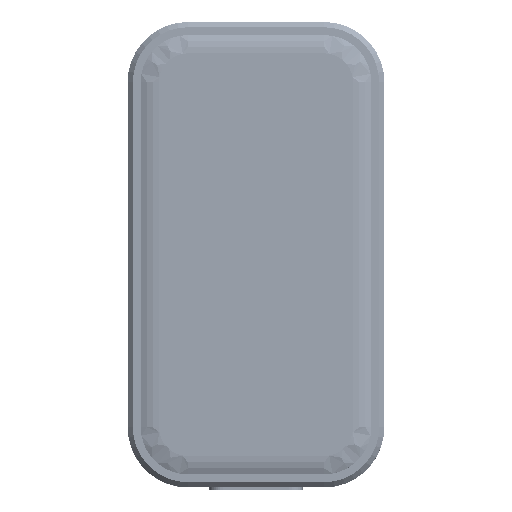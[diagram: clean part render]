
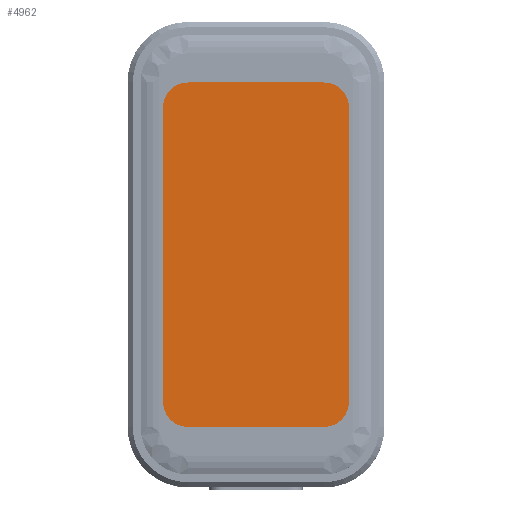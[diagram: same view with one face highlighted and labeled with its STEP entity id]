
A CAD part, top view. The second image highlights one B-rep face of the part: STEP entity #4962.
In plain terms, the highlighted planar face has unit normal (0, 0, 1).
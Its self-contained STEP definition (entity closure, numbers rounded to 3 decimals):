
#3527=CARTESIAN_POINT('',(6.525,14.115,3.2));
#3528=DIRECTION('',(0.,0.,1.));
#3529=DIRECTION('',(1.,0.,0.));
#3530=AXIS2_PLACEMENT_3D('',#3527,#3528,#3529);
#3535=DIRECTION('',(0.,-1.,0.));
#3536=VECTOR('',#3535,28.23);
#3537=CARTESIAN_POINT('',(8.875,14.115,3.2));
#3538=LINE('',#3537,#3536);
#3542=CARTESIAN_POINT('',(6.525,-14.115,3.2));
#3543=DIRECTION('',(0.,0.,1.));
#3544=DIRECTION('',(0.,-1.,0.));
#3545=AXIS2_PLACEMENT_3D('',#3542,#3543,#3544);
#3550=DIRECTION('',(-1.,0.,0.));
#3551=VECTOR('',#3550,13.05);
#3552=CARTESIAN_POINT('',(6.525,-16.465,3.2));
#3553=LINE('',#3552,#3551);
#3557=CARTESIAN_POINT('',(-6.525,-14.115,3.2));
#3558=DIRECTION('',(0.,0.,1.));
#3559=DIRECTION('',(-1.,0.,0.));
#3560=AXIS2_PLACEMENT_3D('',#3557,#3558,#3559);
#3565=DIRECTION('',(0.,1.,0.));
#3566=VECTOR('',#3565,28.23);
#3567=CARTESIAN_POINT('',(-8.875,-14.115,3.2));
#3568=LINE('',#3567,#3566);
#3572=CARTESIAN_POINT('',(-6.525,14.115,3.2));
#3573=DIRECTION('',(0.,0.,1.));
#3574=DIRECTION('',(0.,1.,0.));
#3575=AXIS2_PLACEMENT_3D('',#3572,#3573,#3574);
#3580=DIRECTION('',(1.,0.,0.));
#3581=VECTOR('',#3580,13.05);
#3582=CARTESIAN_POINT('',(-6.525,16.465,3.2));
#3583=LINE('',#3582,#3581);
#3928=CARTESIAN_POINT('',(8.875,14.115,3.2));
#3929=CARTESIAN_POINT('',(6.525,16.465,3.2));
#3930=VERTEX_POINT('',#3928);
#3931=VERTEX_POINT('',#3929);
#3932=CARTESIAN_POINT('',(8.875,-14.115,3.2));
#3933=VERTEX_POINT('',#3932);
#3934=CARTESIAN_POINT('',(6.525,-16.465,3.2));
#3935=VERTEX_POINT('',#3934);
#3936=CARTESIAN_POINT('',(-6.525,-16.465,3.2));
#3937=VERTEX_POINT('',#3936);
#3938=CARTESIAN_POINT('',(-8.875,-14.115,3.2));
#3939=VERTEX_POINT('',#3938);
#3940=CARTESIAN_POINT('',(-8.875,14.115,3.2));
#3941=VERTEX_POINT('',#3940);
#3942=CARTESIAN_POINT('',(-6.525,16.465,3.2));
#3943=VERTEX_POINT('',#3942);
#4940=CARTESIAN_POINT('',(0.,0.,3.2));
#4941=DIRECTION('',(0.,0.,1.));
#4942=DIRECTION('',(1.,0.,0.));
#4943=AXIS2_PLACEMENT_3D('',#4940,#4941,#4942);
#4944=PLANE('',#4943);
#4945=ORIENTED_EDGE('',*,*,#4930,.F.);
#4947=ORIENTED_EDGE('',*,*,#4946,.T.);
#4949=ORIENTED_EDGE('',*,*,#4948,.F.);
#4951=ORIENTED_EDGE('',*,*,#4950,.T.);
#4953=ORIENTED_EDGE('',*,*,#4952,.F.);
#4955=ORIENTED_EDGE('',*,*,#4954,.T.);
#4957=ORIENTED_EDGE('',*,*,#4956,.F.);
#4959=ORIENTED_EDGE('',*,*,#4958,.T.);
#4960=EDGE_LOOP('',(#4945,#4947,#4949,#4951,#4953,#4955,#4957,#4959));
#4961=FACE_OUTER_BOUND('',#4960,.F.);
#4962=ADVANCED_FACE('',(#4961),#4944,.T.);
#3531=CIRCLE('',#3530,2.35);
#3546=CIRCLE('',#3545,2.35);
#3561=CIRCLE('',#3560,2.35);
#3576=CIRCLE('',#3575,2.35);
#4930=EDGE_CURVE('',#3930,#3931,#3531,.T.);
#4946=EDGE_CURVE('',#3930,#3933,#3538,.T.);
#4948=EDGE_CURVE('',#3935,#3933,#3546,.T.);
#4950=EDGE_CURVE('',#3935,#3937,#3553,.T.);
#4952=EDGE_CURVE('',#3939,#3937,#3561,.T.);
#4954=EDGE_CURVE('',#3939,#3941,#3568,.T.);
#4956=EDGE_CURVE('',#3943,#3941,#3576,.T.);
#4958=EDGE_CURVE('',#3943,#3931,#3583,.T.);
